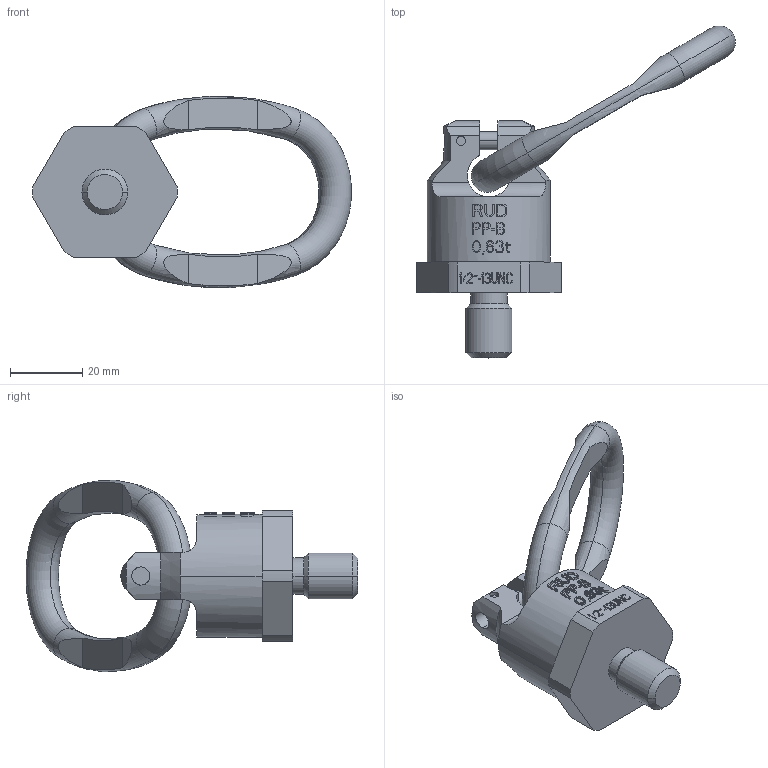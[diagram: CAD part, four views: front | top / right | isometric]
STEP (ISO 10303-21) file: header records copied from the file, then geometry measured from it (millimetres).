
FILE_DESCRIPTION((''),'2;1');
FILE_NAME('001-M31440-P4-60-Z_ASM','2008-10-29T',('Azubitbm'),('RAND'),'PRO/ENGINEER BY PARAMETRIC TECHNOLOGY CORPORATION, 2005030','PRO/ENGINEER BY PARAMETRIC TECHNOLOGY CORPORATION, 2005030','');
FILE_SCHEMA(('CONFIG_CONTROL_DESIGN'));
Length unit declared in the file: millimetre
Products named in the file (4): 001-M31440-002; 001-M31440-007; 001-M31290-006; 001-M31440-P4-60-Z_ASM
Assembly tree (3 placements, depth 2):
  001-M31440-P4-60-Z_ASM
    001-M31440-002
    001-M31440-007
    001-M31290-006
Bounding box: 88.1 x 91.73 x 52.87 mm (x, y, z)
Volume: 43492 mm3; surface area: 14938.7 mm2
Topology: 3 solids, 3 shells, 660 faces, 1832 edges, 1216 vertices
Faces by surface type: plane 593, cylinder 51, cone 8, torus 8
Entity records: 21396 total; most frequent: CARTESIAN_POINT 5247, ORIENTED_EDGE 3664, DIRECTION 2812, EDGE_CURVE 1832, VERTEX_POINT 1216, VECTOR 1118, LINE 1118, AXIS2_PLACEMENT_3D 847
